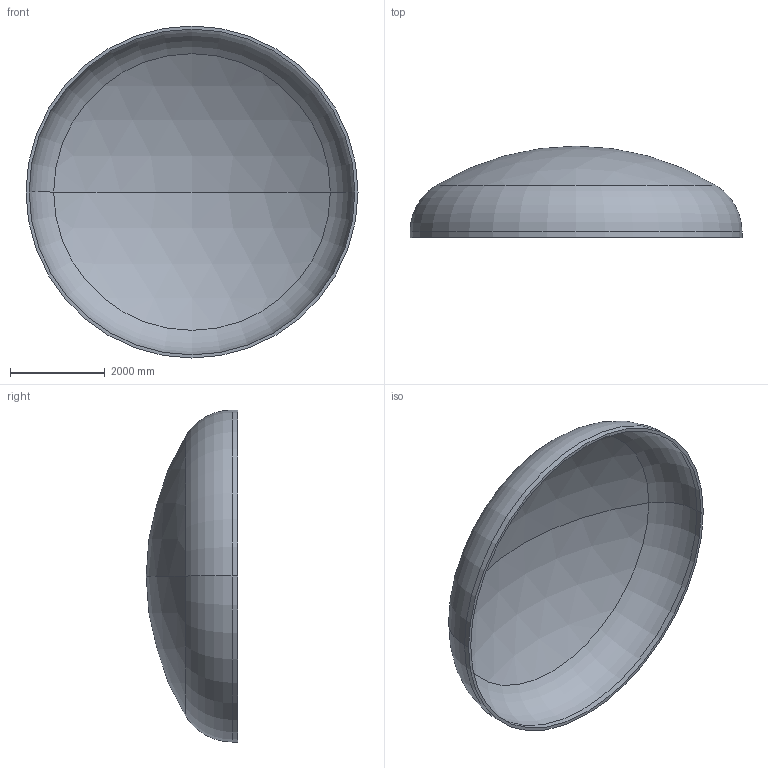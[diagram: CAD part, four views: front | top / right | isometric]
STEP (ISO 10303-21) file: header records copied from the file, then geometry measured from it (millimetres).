
FILE_DESCRIPTION (( 'STEP AP203' ), '1' );
FILE_NAME ('DIN 28013 Korbbogenform_-_Boden DIN 28013 - 7000 x 120 - I - s=66.step', '2016-07-04T10:48:40', ( '' ), ( '' ), 'SwSTEP 2.0', 'SolidWorks 2013', '' );
FILE_SCHEMA (( 'CONFIG_CONTROL_DESIGN' ));
Length unit declared in the file: millimetre
Products named in the file (1): DIN 28013 Korbbogenform_-_Boden DIN 28013 - 7000 x 120 - I - s=66
Bounding box: 7000 x 1927.36 x 7000 mm (x, y, z)
Volume: 3648035640.1 mm3; surface area: 111993346.2 mm2
Topology: 1 solids, 1 shells, 13 faces, 24 edges, 14 vertices
Faces by surface type: torus 4, cylinder 4, sphere 4, plane 1
Entity records: 407 total; most frequent: DIRECTION 72, CARTESIAN_POINT 52, ORIENTED_EDGE 48, AXIS2_PLACEMENT_3D 34, EDGE_CURVE 24, CIRCLE 20, EDGE_LOOP 14, VERTEX_POINT 14
